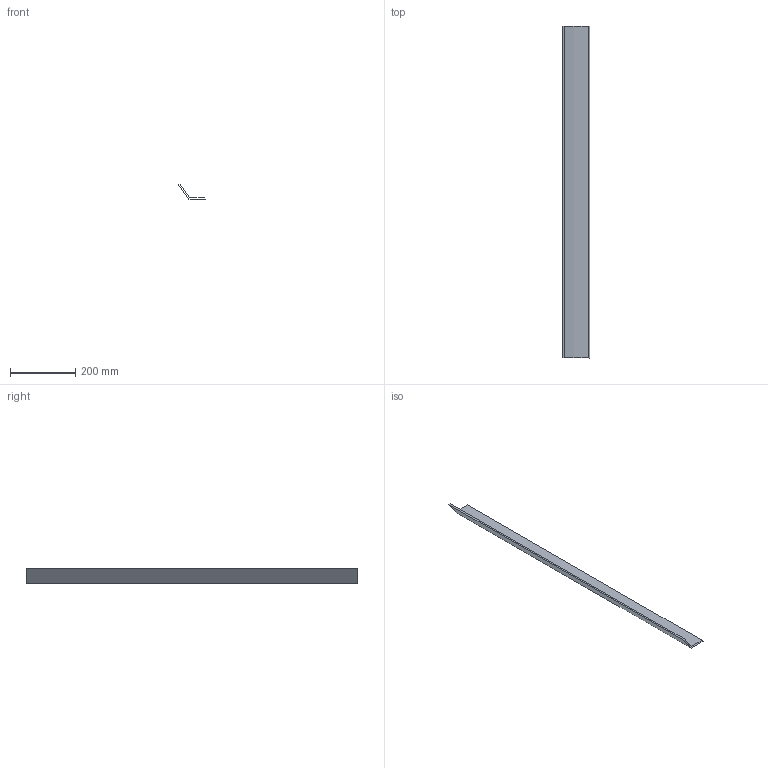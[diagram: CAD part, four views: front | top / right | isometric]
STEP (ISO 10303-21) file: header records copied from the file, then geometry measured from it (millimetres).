
FILE_DESCRIPTION(/* description */ (''),/* implementation_level */ '2;1');
FILE_NAME(/* name */ 'bar_1_middle',/* time_stamp */ '2018-02-20T19:22:59+01:00',/* author */ (''),/* organization */ (''),/* preprocessor_version */ 'ST-DEVELOPER v14',/* originating_system */ '',/* authorisation */ '');
FILE_SCHEMA (('CONFIG_CONTROL_DESIGN'));
Length unit declared in the file: millimetre
Products named in the file (1): Document
Bounding box: 84.46 x 1019.99 x 47 mm (x, y, z)
Surface area: 222199.2 mm2 (no closed solid volume)
Topology: 0 solids, 1 shells, 6 faces, 18 edges, 12 vertices
Faces by surface type: bspline 6
Entity records: 294 total; most frequent: CARTESIAN_POINT 106, ORIENTED_EDGE 24, EDGE_CURVE 18, B_SPLINE_CURVE_WITH_KNOTS 18, VERTEX_POINT 12, ORGANIZATION 7, PERSON_AND_ORGANIZATION 7, ADVANCED_FACE 6
